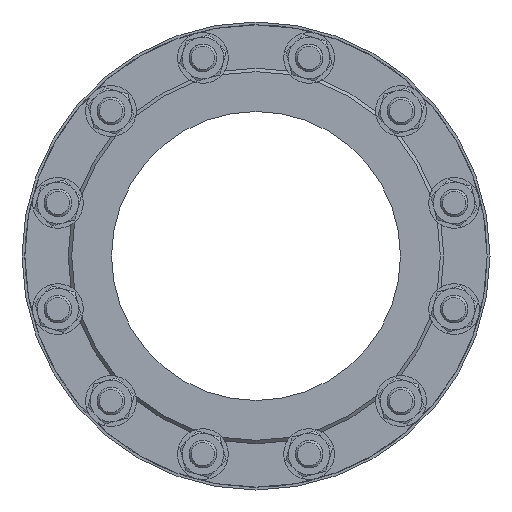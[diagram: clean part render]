
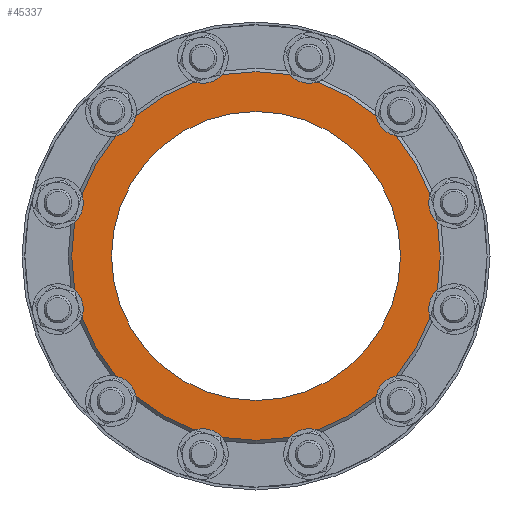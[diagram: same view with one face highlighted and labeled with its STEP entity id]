
A CAD part, left-side view. The second image highlights one B-rep face of the part: STEP entity #45337.
In plain terms, the highlighted planar face has unit normal (-1, 0, 0).
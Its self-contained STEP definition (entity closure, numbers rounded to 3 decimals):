
#602 = FACE_OUTER_BOUND ( 'NONE', #16675, .T. ) ;
#3843 = CARTESIAN_POINT ( 'NONE',  ( -15., 0., 125. ) ) ;
#4796 = ORIENTED_EDGE ( 'NONE', *, *, #8211, .T. ) ;
#5663 = ORIENTED_EDGE ( 'NONE', *, *, #19974, .T. ) ;
#7276 = PLANE ( 'NONE',  #14596 ) ;
#8211 = EDGE_CURVE ( 'NONE', #18457, #18457, #38766, .T. ) ;
#11121 = CARTESIAN_POINT ( 'NONE',  ( -15., -159.5, 0. ) ) ;
#11718 = CARTESIAN_POINT ( 'NONE',  ( -15., 0., 0. ) ) ;
#14596 = AXIS2_PLACEMENT_3D ( 'NONE', #3843, #39162, #14829 ) ;
#14829 = DIRECTION ( 'NONE',  ( 0., 1., 0. ) ) ;
#16380 = CARTESIAN_POINT ( 'NONE',  ( -15., 0., -125. ) ) ;
#16675 = EDGE_LOOP ( 'NONE', ( #4796 ) ) ;
#18352 = CARTESIAN_POINT ( 'NONE',  ( -15., 0., 0. ) ) ;
#18452 = EDGE_LOOP ( 'NONE', ( #5663 ) ) ;
#18457 = VERTEX_POINT ( 'NONE', #11121 ) ;
#19974 = EDGE_CURVE ( 'NONE', #23723, #23723, #21130, .T. ) ;
#21130 = CIRCLE ( 'NONE', #24695, 125. ) ;
#23723 = VERTEX_POINT ( 'NONE', #16380 ) ;
#24695 = AXIS2_PLACEMENT_3D ( 'NONE', #11718, #26174, #29827 ) ;
#24744 = FACE_BOUND ( 'NONE', #18452, .T. ) ;
#26174 = DIRECTION ( 'NONE',  ( 1., 0., 0. ) ) ;
#28001 = DIRECTION ( 'NONE',  ( 0., -1., 0. ) ) ;
#29827 = DIRECTION ( 'NONE',  ( 0., 0., -1. ) ) ;
#32325 = DIRECTION ( 'NONE',  ( -1., 0., 0. ) ) ;
#38766 = CIRCLE ( 'NONE', #40277, 159.5 ) ;
#39162 = DIRECTION ( 'NONE',  ( 1., 0., 0. ) ) ;
#40277 = AXIS2_PLACEMENT_3D ( 'NONE', #18352, #32325, #28001 ) ;
#45337 = ADVANCED_FACE ( 'NONE', ( #24744, #602 ), #7276, .F. ) ;
